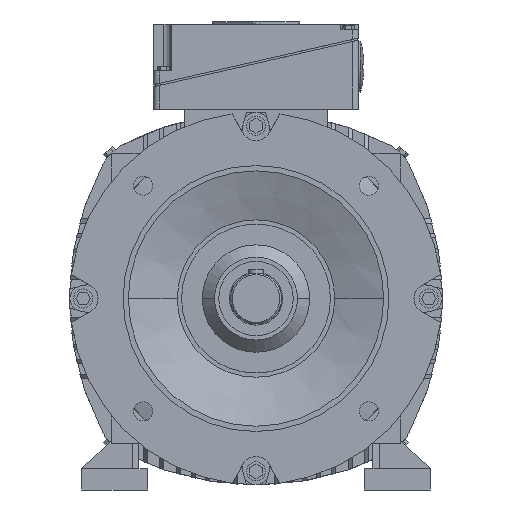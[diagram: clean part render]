
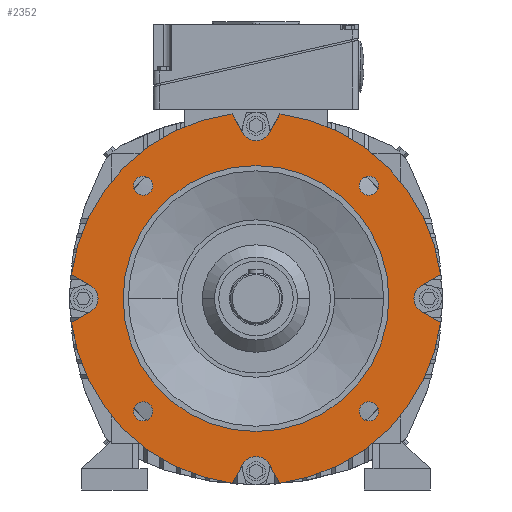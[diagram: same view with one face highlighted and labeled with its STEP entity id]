
A CAD part, front view. The second image highlights one B-rep face of the part: STEP entity #2352.
In plain terms, the highlighted planar face has unit normal (0, -1, 0).
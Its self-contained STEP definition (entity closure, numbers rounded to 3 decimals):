
#2352=ADVANCED_FACE('',(#4880,#4881,#4882,#4883,#4884,#4885),#4886,.T.);
#4880=FACE_OUTER_BOUND('',#7576,.T.);
#4881=FACE_BOUND('',#7577,.T.);
#4882=FACE_BOUND('',#7578,.T.);
#4883=FACE_BOUND('',#7579,.T.);
#4884=FACE_BOUND('',#7580,.T.);
#4885=FACE_BOUND('',#7581,.T.);
#4886=PLANE('',#7582);
#7576=EDGE_LOOP('',(#15180,#15181,#15182,#15183,#15184,#15185,#15186,#15187,#15188,#15189,#15190,#15191,#15192,#15193,#15194,#15195));
#7577=EDGE_LOOP('',(#15196,#15197));
#7578=EDGE_LOOP('',(#15198,#15199));
#7579=EDGE_LOOP('',(#15200,#15201));
#7580=EDGE_LOOP('',(#15202,#15203));
#7581=EDGE_LOOP('',(#15204,#15205));
#7582=AXIS2_PLACEMENT_3D('',#15206,#15207,#15208);
#15180=ORIENTED_EDGE('',*,*,#19275,.T.);
#15181=ORIENTED_EDGE('',*,*,#19471,.T.);
#15182=ORIENTED_EDGE('',*,*,#19419,.T.);
#15183=ORIENTED_EDGE('',*,*,#19409,.T.);
#15184=ORIENTED_EDGE('',*,*,#19414,.T.);
#15185=ORIENTED_EDGE('',*,*,#19393,.T.);
#15186=ORIENTED_EDGE('',*,*,#19384,.T.);
#15187=ORIENTED_EDGE('',*,*,#19374,.T.);
#15188=ORIENTED_EDGE('',*,*,#19379,.T.);
#15189=ORIENTED_EDGE('',*,*,#19358,.T.);
#15190=ORIENTED_EDGE('',*,*,#19350,.T.);
#15191=ORIENTED_EDGE('',*,*,#19340,.T.);
#15192=ORIENTED_EDGE('',*,*,#19345,.T.);
#15193=ORIENTED_EDGE('',*,*,#19290,.T.);
#15194=ORIENTED_EDGE('',*,*,#19281,.T.);
#15195=ORIENTED_EDGE('',*,*,#19267,.T.);
#15196=ORIENTED_EDGE('',*,*,#19446,.T.);
#15197=ORIENTED_EDGE('',*,*,#16739,.T.);
#15198=ORIENTED_EDGE('',*,*,#19448,.T.);
#15199=ORIENTED_EDGE('',*,*,#16734,.T.);
#15200=ORIENTED_EDGE('',*,*,#19450,.T.);
#15201=ORIENTED_EDGE('',*,*,#16729,.T.);
#15202=ORIENTED_EDGE('',*,*,#19452,.T.);
#15203=ORIENTED_EDGE('',*,*,#16724,.T.);
#15204=ORIENTED_EDGE('',*,*,#16696,.F.);
#15205=ORIENTED_EDGE('',*,*,#19473,.F.);
#15206=CARTESIAN_POINT('',(-150.0,-69.5,0.0));
#15207=DIRECTION('',(0.0,-1.0,0.0));
#15208=DIRECTION('',(-1.0,0.0,0.0));
#16696=EDGE_CURVE('',#20121,#20124,#20125,.T.);
#16724=EDGE_CURVE('',#20174,#20171,#20175,.T.);
#16729=EDGE_CURVE('',#20183,#20180,#20184,.T.);
#16734=EDGE_CURVE('',#20192,#20189,#20193,.T.);
#16739=EDGE_CURVE('',#20201,#20198,#20202,.T.);
#19267=EDGE_CURVE('',#23977,#23978,#23979,.T.);
#19275=EDGE_CURVE('',#23978,#23989,#23991,.T.);
#19281=EDGE_CURVE('',#23994,#23977,#24001,.T.);
#19290=EDGE_CURVE('',#24011,#23994,#24012,.T.);
#19340=EDGE_CURVE('',#24095,#24096,#24097,.T.);
#19345=EDGE_CURVE('',#24096,#24011,#24102,.T.);
#19350=EDGE_CURVE('',#24105,#24095,#24109,.T.);
#19358=EDGE_CURVE('',#24118,#24105,#24119,.T.);
#19374=EDGE_CURVE('',#24143,#24144,#24145,.T.);
#19379=EDGE_CURVE('',#24144,#24118,#24150,.T.);
#19384=EDGE_CURVE('',#24153,#24143,#24157,.T.);
#19393=EDGE_CURVE('',#24168,#24153,#24169,.T.);
#19409=EDGE_CURVE('',#24192,#24193,#24194,.T.);
#19414=EDGE_CURVE('',#24193,#24168,#24199,.T.);
#19419=EDGE_CURVE('',#24202,#24192,#24206,.T.);
#19446=EDGE_CURVE('',#20198,#20201,#24236,.T.);
#19448=EDGE_CURVE('',#20189,#20192,#24238,.T.);
#19450=EDGE_CURVE('',#20180,#20183,#24240,.T.);
#19452=EDGE_CURVE('',#20171,#20174,#24242,.T.);
#19471=EDGE_CURVE('',#23989,#24202,#24261,.T.);
#19473=EDGE_CURVE('',#20124,#20121,#24263,.T.);
#20121=VERTEX_POINT('',#25349);
#20124=VERTEX_POINT('',#25353);
#20125=CIRCLE('',#25354,125.0);
#20171=VERTEX_POINT('',#25479);
#20174=VERTEX_POINT('',#25483);
#20175=CIRCLE('',#25484,9.0);
#20180=VERTEX_POINT('',#25490);
#20183=VERTEX_POINT('',#25494);
#20184=CIRCLE('',#25495,9.0);
#20189=VERTEX_POINT('',#25501);
#20192=VERTEX_POINT('',#25505);
#20193=CIRCLE('',#25506,9.0);
#20198=VERTEX_POINT('',#25512);
#20201=VERTEX_POINT('',#25516);
#20202=CIRCLE('',#25517,9.0);
#23977=VERTEX_POINT('',#35981);
#23978=VERTEX_POINT('',#35982);
#23979=CIRCLE('',#35983,14.0);
#23989=VERTEX_POINT('',#36035);
#23991=LINE('',#36038,#36039);
#23994=VERTEX_POINT('',#36042);
#24001=LINE('',#36090,#36091);
#24011=VERTEX_POINT('',#36106);
#24012=CIRCLE('',#36107,175.0);
#24095=VERTEX_POINT('',#36260);
#24096=VERTEX_POINT('',#36261);
#24097=CIRCLE('',#36262,14.0);
#24102=LINE('',#36270,#36271);
#24105=VERTEX_POINT('',#36274);
#24109=LINE('',#36318,#36319);
#24118=VERTEX_POINT('',#36340);
#24119=CIRCLE('',#36341,175.0);
#24143=VERTEX_POINT('',#36418);
#24144=VERTEX_POINT('',#36419);
#24145=CIRCLE('',#36420,14.0);
#24150=LINE('',#36428,#36429);
#24153=VERTEX_POINT('',#36432);
#24157=LINE('',#36476,#36477);
#24168=VERTEX_POINT('',#36500);
#24169=CIRCLE('',#36501,175.0);
#24192=VERTEX_POINT('',#36569);
#24193=VERTEX_POINT('',#36570);
#24194=CIRCLE('',#36571,14.0);
#24199=LINE('',#36579,#36580);
#24202=VERTEX_POINT('',#36583);
#24206=LINE('',#36627,#36628);
#24236=CIRCLE('',#36730,9.0);
#24238=CIRCLE('',#36732,9.0);
#24240=CIRCLE('',#36734,9.0);
#24242=CIRCLE('',#36736,9.0);
#24261=CIRCLE('',#36782,175.0);
#24263=CIRCLE('',#36784,125.0);
#25349=CARTESIAN_POINT('',(-125.0,-69.5,0.0));
#25353=CARTESIAN_POINT('',(125.0,-69.5,0.));
#25354=AXIS2_PLACEMENT_3D('',#38165,#38166,#38167);
#25479=CARTESIAN_POINT('',(112.43,-69.5,112.43));
#25483=CARTESIAN_POINT('',(99.702,-69.5,99.702));
#25484=AXIS2_PLACEMENT_3D('',#38201,#38202,#38203);
#25490=CARTESIAN_POINT('',(-112.43,-69.5,112.43));
#25494=CARTESIAN_POINT('',(-99.702,-69.5,99.702));
#25495=AXIS2_PLACEMENT_3D('',#38209,#38210,#38211);
#25501=CARTESIAN_POINT('',(-112.43,-69.5,-112.43));
#25505=CARTESIAN_POINT('',(-99.702,-69.5,-99.702));
#25506=AXIS2_PLACEMENT_3D('',#38217,#38218,#38219);
#25512=CARTESIAN_POINT('',(112.43,-69.5,-112.43));
#25516=CARTESIAN_POINT('',(99.702,-69.5,-99.702));
#25517=AXIS2_PLACEMENT_3D('',#38225,#38226,#38227);
#35981=CARTESIAN_POINT('',(-155.5,-69.5,12.124));
#35982=CARTESIAN_POINT('',(-155.5,-69.5,-12.124));
#35983=AXIS2_PLACEMENT_3D('',#40591,#40592,#40593);
#36035=CARTESIAN_POINT('',(-173.542,-69.5,-22.541));
#36038=CARTESIAN_POINT('',(-190.687,-69.5,-32.44));
#36039=VECTOR('',#40599,1.0);
#36042=CARTESIAN_POINT('',(-173.542,-69.5,22.541));
#36090=CARTESIAN_POINT('',(-190.687,-69.5,32.44));
#36091=VECTOR('',#40603,1.0);
#36106=CARTESIAN_POINT('',(-22.541,-69.5,173.542));
#36107=AXIS2_PLACEMENT_3D('',#40609,#40610,#40611);
#36260=CARTESIAN_POINT('',(12.124,-69.5,155.5));
#36261=CARTESIAN_POINT('',(-12.124,-69.5,155.5));
#36262=AXIS2_PLACEMENT_3D('',#40692,#40693,#40694);
#36270=CARTESIAN_POINT('',(-18.714,-69.5,166.913));
#36271=VECTOR('',#40698,1.0);
#36274=CARTESIAN_POINT('',(22.541,-69.5,173.542));
#36318=CARTESIAN_POINT('',(-18.786,-69.5,101.962));
#36319=VECTOR('',#40701,1.0);
#36340=CARTESIAN_POINT('',(173.542,-69.5,22.541));
#36341=AXIS2_PLACEMENT_3D('',#40705,#40706,#40707);
#36418=CARTESIAN_POINT('',(155.5,-69.5,-12.124));
#36419=CARTESIAN_POINT('',(155.5,-69.5,12.124));
#36420=AXIS2_PLACEMENT_3D('',#40723,#40724,#40725);
#36428=CARTESIAN_POINT('',(78.187,-69.5,-32.512));
#36429=VECTOR('',#40729,1.0);
#36432=CARTESIAN_POINT('',(173.542,-69.5,-22.541));
#36476=CARTESIAN_POINT('',(78.187,-69.5,32.512));
#36477=VECTOR('',#40732,1.0);
#36500=CARTESIAN_POINT('',(22.541,-69.5,-173.542));
#36501=AXIS2_PLACEMENT_3D('',#40739,#40740,#40741);
#36569=CARTESIAN_POINT('',(-12.124,-69.5,-155.5));
#36570=CARTESIAN_POINT('',(12.124,-69.5,-155.5));
#36571=AXIS2_PLACEMENT_3D('',#40758,#40759,#40760);
#36579=CARTESIAN_POINT('',(-18.786,-69.5,-101.962));
#36580=VECTOR('',#40764,1.0);
#36583=CARTESIAN_POINT('',(-22.541,-69.5,-173.542));
#36627=CARTESIAN_POINT('',(-18.714,-69.5,-166.913));
#36628=VECTOR('',#40767,1.0);
#36730=AXIS2_PLACEMENT_3D('',#40783,#40784,#40785);
#36732=AXIS2_PLACEMENT_3D('',#40786,#40787,#40788);
#36734=AXIS2_PLACEMENT_3D('',#40789,#40790,#40791);
#36736=AXIS2_PLACEMENT_3D('',#40792,#40793,#40794);
#36782=AXIS2_PLACEMENT_3D('',#40804,#40805,#40806);
#36784=AXIS2_PLACEMENT_3D('',#40807,#40808,#40809);
#38165=CARTESIAN_POINT('',(0.0,-69.5,0.0));
#38166=DIRECTION('',(0.0,-1.0,0.0));
#38167=DIRECTION('',(-1.0,0.0,0.0));
#38201=CARTESIAN_POINT('',(106.066,-69.5,106.066));
#38202=DIRECTION('',(-0.0,1.0,0.0));
#38203=DIRECTION('',(0.707,0.0,0.707));
#38209=CARTESIAN_POINT('',(-106.066,-69.5,106.066));
#38210=DIRECTION('',(0.0,1.0,-0.0));
#38211=DIRECTION('',(-0.707,0.0,0.707));
#38217=CARTESIAN_POINT('',(-106.066,-69.5,-106.066));
#38218=DIRECTION('',(0.0,1.0,0.0));
#38219=DIRECTION('',(-0.707,0.0,-0.707));
#38225=CARTESIAN_POINT('',(106.066,-69.5,-106.066));
#38226=DIRECTION('',(-0.0,1.0,0.0));
#38227=DIRECTION('',(0.707,0.0,-0.707));
#40591=CARTESIAN_POINT('',(-162.5,-69.5,0.));
#40592=DIRECTION('',(-0.0,1.0,0.0));
#40593=DIRECTION('',(0.5,0.0,-0.866));
#40599=DIRECTION('',(-0.866,-0.0,-0.5));
#40603=DIRECTION('',(0.866,0.0,-0.5));
#40609=CARTESIAN_POINT('',(0.0,-69.5,0.0));
#40610=DIRECTION('',(0.0,-1.0,0.0));
#40611=DIRECTION('',(-1.0,0.0,0.0));
#40692=CARTESIAN_POINT('',(0.,-69.5,162.5));
#40693=DIRECTION('',(0.0,1.0,0.0));
#40694=DIRECTION('',(-0.866,0.0,-0.5));
#40698=DIRECTION('',(-0.5,0.0,0.866));
#40701=DIRECTION('',(-0.5,-0.0,-0.866));
#40705=CARTESIAN_POINT('',(0.0,-69.5,0.0));
#40706=DIRECTION('',(0.0,-1.0,0.0));
#40707=DIRECTION('',(-1.0,0.0,0.0));
#40723=CARTESIAN_POINT('',(162.5,-69.5,0.));
#40724=DIRECTION('',(0.0,1.0,-0.0));
#40725=DIRECTION('',(-0.5,0.0,0.866));
#40729=DIRECTION('',(0.866,0.0,0.5));
#40732=DIRECTION('',(-0.866,0.0,0.5));
#40739=CARTESIAN_POINT('',(0.0,-69.5,0.0));
#40740=DIRECTION('',(0.0,-1.0,0.0));
#40741=DIRECTION('',(-1.0,0.0,0.0));
#40758=CARTESIAN_POINT('',(0.,-69.5,-162.5));
#40759=DIRECTION('',(-0.0,1.0,0.0));
#40760=DIRECTION('',(0.866,0.0,0.5));
#40764=DIRECTION('',(0.5,0.0,-0.866));
#40767=DIRECTION('',(0.5,0.0,0.866));
#40783=CARTESIAN_POINT('',(106.066,-69.5,-106.066));
#40784=DIRECTION('',(-0.0,1.0,0.0));
#40785=DIRECTION('',(0.707,0.0,-0.707));
#40786=CARTESIAN_POINT('',(-106.066,-69.5,-106.066));
#40787=DIRECTION('',(0.0,1.0,0.0));
#40788=DIRECTION('',(-0.707,0.0,-0.707));
#40789=CARTESIAN_POINT('',(-106.066,-69.5,106.066));
#40790=DIRECTION('',(0.0,1.0,-0.0));
#40791=DIRECTION('',(-0.707,0.0,0.707));
#40792=CARTESIAN_POINT('',(106.066,-69.5,106.066));
#40793=DIRECTION('',(-0.0,1.0,0.0));
#40794=DIRECTION('',(0.707,0.0,0.707));
#40804=CARTESIAN_POINT('',(0.0,-69.5,0.0));
#40805=DIRECTION('',(0.0,-1.0,0.0));
#40806=DIRECTION('',(-1.0,0.0,0.0));
#40807=CARTESIAN_POINT('',(0.0,-69.5,0.0));
#40808=DIRECTION('',(0.0,-1.0,0.0));
#40809=DIRECTION('',(-1.0,0.0,0.0));
